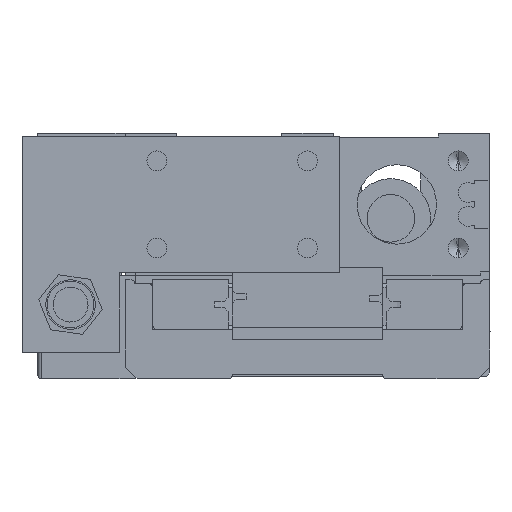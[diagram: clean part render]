
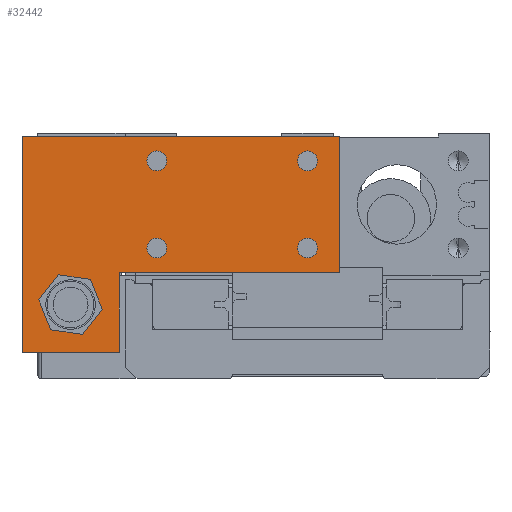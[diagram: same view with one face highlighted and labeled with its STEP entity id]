
A CAD part, front view. The second image highlights one B-rep face of the part: STEP entity #32442.
In plain terms, the highlighted planar face has unit normal (0, -1, 0) as drawn and (0, 0, -1) by its records, which use the part's own axes.
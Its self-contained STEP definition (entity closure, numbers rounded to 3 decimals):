
#13167 = CIRCLE ( 'NONE', #13174, 6.25 ) ;
#13174 = AXIS2_PLACEMENT_3D ( 'NONE', #13279, #13278, #13277 ) ;
#13277 = DIRECTION ( 'NONE',  ( -1., 0., 0. ) ) ;
#13278 = DIRECTION ( 'NONE',  ( 0., 0., -1. ) ) ;
#13279 = CARTESIAN_POINT ( 'NONE',  ( -67.75, 42.5, 0. ) ) ;
#21787 = DIRECTION ( 'NONE',  ( -1., 0., 0. ) ) ;
#21788 = DIRECTION ( 'NONE',  ( 0., 0., -1. ) ) ;
#21790 = CARTESIAN_POINT ( 'NONE',  ( -43.5, 28.25, 0. ) ) ;
#21792 = AXIS2_PLACEMENT_3D ( 'NONE', #21796, #21788, #21787 ) ;
#21796 = CARTESIAN_POINT ( 'NONE',  ( -67.75, 42.5, 0. ) ) ;
#21800 = CIRCLE ( 'NONE', #21792, 6.25 ) ;
#21838 = CARTESIAN_POINT ( 'NONE',  ( -61.5, 42.5, 0. ) ) ;
#21843 = CIRCLE ( 'NONE', #21868, 2.5 ) ;
#21844 = CARTESIAN_POINT ( 'NONE',  ( -5.5, 28.25, 0. ) ) ;
#21847 = AXIS2_PLACEMENT_3D ( 'NONE', #21897, #21896, #21895 ) ;
#21862 = DIRECTION ( 'NONE',  ( -1., 0., 0. ) ) ;
#21863 = DIRECTION ( 'NONE',  ( 0., 0., -1. ) ) ;
#21864 = CARTESIAN_POINT ( 'NONE',  ( -46., 6.25, 0. ) ) ;
#21866 = CARTESIAN_POINT ( 'NONE',  ( -43.5, 6.25, 0. ) ) ;
#21868 = AXIS2_PLACEMENT_3D ( 'NONE', #21864, #21863, #21862 ) ;
#21873 = CARTESIAN_POINT ( 'NONE',  ( -48.5, 6.25, 0. ) ) ;
#21876 = CARTESIAN_POINT ( 'NONE',  ( -46., 28.25, 0. ) ) ;
#21877 = CARTESIAN_POINT ( 'NONE',  ( -74., 42.5, 0. ) ) ;
#21888 = AXIS2_PLACEMENT_3D ( 'NONE', #21876, #21941, #21940 ) ;
#21895 = DIRECTION ( 'NONE',  ( -1., 0., 0. ) ) ;
#21896 = DIRECTION ( 'NONE',  ( 0., 0., -1. ) ) ;
#21897 = CARTESIAN_POINT ( 'NONE',  ( -8., 28.25, 0. ) ) ;
#21898 = CIRCLE ( 'NONE', #21888, 2.5 ) ;
#21899 = CARTESIAN_POINT ( 'NONE',  ( -48.5, 28.25, 0. ) ) ;
#21902 = CIRCLE ( 'NONE', #21847, 2.5 ) ;
#21903 = CARTESIAN_POINT ( 'NONE',  ( -10.5, 28.25, 0. ) ) ;
#21909 = DIRECTION ( 'NONE',  ( -1., 0., 0. ) ) ;
#21910 = VECTOR ( 'NONE', #21909, 1000. ) ;
#21914 = CARTESIAN_POINT ( 'NONE',  ( -55.5, 34.5, 0. ) ) ;
#21930 = CARTESIAN_POINT ( 'NONE',  ( -55.5, 34.5, 0. ) ) ;
#21931 = LINE ( 'NONE', #21930, #21910 ) ;
#21940 = DIRECTION ( 'NONE',  ( -1., 0., 0. ) ) ;
#21941 = DIRECTION ( 'NONE',  ( 0., 0., -1. ) ) ;
#21945 = DIRECTION ( 'NONE',  ( 0., 1., 0. ) ) ;
#21946 = VECTOR ( 'NONE', #21945, 1000. ) ;
#21947 = CARTESIAN_POINT ( 'NONE',  ( 0., 34.5, 0. ) ) ;
#21949 = LINE ( 'NONE', #21947, #21946 ) ;
#21956 = CARTESIAN_POINT ( 'NONE',  ( 0., 0., 0. ) ) ;
#21977 = CARTESIAN_POINT ( 'NONE',  ( -5.5, 6.25, 0. ) ) ;
#21980 = LINE ( 'NONE', #22031, #22030 ) ;
#21986 = CARTESIAN_POINT ( 'NONE',  ( 0., 34.5, 0. ) ) ;
#21995 = DIRECTION ( 'NONE',  ( -1., 0., 0. ) ) ;
#21996 = DIRECTION ( 'NONE',  ( 0., 0., -1. ) ) ;
#21997 = CARTESIAN_POINT ( 'NONE',  ( -8., 6.25, 0. ) ) ;
#21998 = AXIS2_PLACEMENT_3D ( 'NONE', #21997, #21996, #21995 ) ;
#22000 = CIRCLE ( 'NONE', #21998, 2.5 ) ;
#22010 = CARTESIAN_POINT ( 'NONE',  ( -10.5, 6.25, 0. ) ) ;
#22029 = DIRECTION ( 'NONE',  ( 1., 0., 0. ) ) ;
#22030 = VECTOR ( 'NONE', #22029, 1000. ) ;
#22031 = CARTESIAN_POINT ( 'NONE',  ( 0., 0., 0. ) ) ;
#22064 = CARTESIAN_POINT ( 'NONE',  ( -80., 54.5, 0. ) ) ;
#22105 = FACE_BOUND ( 'NONE', #29229, .T. ) ;
#22106 = DIRECTION ( 'NONE',  ( 0., 0., -1. ) ) ;
#22109 = DIRECTION ( 'NONE',  ( 0., 1., 0. ) ) ;
#22110 = VECTOR ( 'NONE', #22109, 1000. ) ;
#22111 = CARTESIAN_POINT ( 'NONE',  ( -55.5, 54.5, 0. ) ) ;
#22112 = CARTESIAN_POINT ( 'NONE',  ( -55.5, 54.5, 0. ) ) ;
#22115 = LINE ( 'NONE', #22111, #22110 ) ;
#22117 = DIRECTION ( 'NONE',  ( 0., -1., 0. ) ) ;
#22118 = VECTOR ( 'NONE', #22117, 1000. ) ;
#22119 = CARTESIAN_POINT ( 'NONE',  ( -80., 0., 0. ) ) ;
#22120 = LINE ( 'NONE', #22119, #22118 ) ;
#22124 = CARTESIAN_POINT ( 'NONE',  ( -80., 0., 0. ) ) ;
#22134 = DIRECTION ( 'NONE',  ( -1., 0., 0. ) ) ;
#22135 = DIRECTION ( 'NONE',  ( 0., 0., -1. ) ) ;
#22136 = CARTESIAN_POINT ( 'NONE',  ( -46., 6.25, 0. ) ) ;
#22137 = AXIS2_PLACEMENT_3D ( 'NONE', #22136, #22135, #22134 ) ;
#22142 = CIRCLE ( 'NONE', #22137, 2.5 ) ;
#22143 = AXIS2_PLACEMENT_3D ( 'NONE', #22201, #22200, #22199 ) ;
#22146 = FACE_BOUND ( 'NONE', #32434, .T. ) ;
#22147 = DIRECTION ( 'NONE',  ( -1., 0., 0. ) ) ;
#22148 = DIRECTION ( 'NONE',  ( 0., 0., -1. ) ) ;
#22149 = CARTESIAN_POINT ( 'NONE',  ( -8., 28.25, 0. ) ) ;
#22150 = AXIS2_PLACEMENT_3D ( 'NONE', #22149, #22148, #22147 ) ;
#22151 = FACE_BOUND ( 'NONE', #32439, .T. ) ;
#22152 = CIRCLE ( 'NONE', #22143, 2.5 ) ;
#22153 = FACE_BOUND ( 'NONE', #32454, .T. ) ;
#22154 = CIRCLE ( 'NONE', #22150, 2.5 ) ;
#22155 = DIRECTION ( 'NONE',  ( -1., 0., 0. ) ) ;
#22156 = DIRECTION ( 'NONE',  ( -1., 0., 0. ) ) ;
#22157 = VECTOR ( 'NONE', #22156, 1000. ) ;
#22158 = CARTESIAN_POINT ( 'NONE',  ( -80., 54.5, 0. ) ) ;
#22159 = LINE ( 'NONE', #22158, #22157 ) ;
#22160 = CARTESIAN_POINT ( 'NONE',  ( 0., 0., 0. ) ) ;
#22161 = FACE_BOUND ( 'NONE', #32455, .T. ) ;
#22165 = AXIS2_PLACEMENT_3D ( 'NONE', #22160, #22106, #22155 ) ;
#22166 = PLANE ( 'NONE',  #22165 ) ;
#22167 = FACE_OUTER_BOUND ( 'NONE', #32430, .T. ) ;
#22199 = DIRECTION ( 'NONE',  ( -1., 0., 0. ) ) ;
#22200 = DIRECTION ( 'NONE',  ( 0., 0., -1. ) ) ;
#22201 = CARTESIAN_POINT ( 'NONE',  ( -8., 6.25, 0. ) ) ;
#22202 = DIRECTION ( 'NONE',  ( -1., 0., 0. ) ) ;
#22203 = DIRECTION ( 'NONE',  ( 0., 0., -1. ) ) ;
#22204 = AXIS2_PLACEMENT_3D ( 'NONE', #22224, #22203, #22202 ) ;
#22214 = CIRCLE ( 'NONE', #22204, 2.5 ) ;
#22224 = CARTESIAN_POINT ( 'NONE',  ( -46., 28.25, 0. ) ) ;
#27595 = ORIENTED_EDGE ( 'NONE', *, *, #32304, .F. ) ;
#27597 = EDGE_CURVE ( 'NONE', #32338, #32286, #13167, .T. ) ;
#29229 = EDGE_LOOP ( 'NONE', ( #32457, #32444 ) ) ;
#32260 = VERTEX_POINT ( 'NONE', #21790 ) ;
#32264 = EDGE_CURVE ( 'NONE', #32286, #32338, #21800, .T. ) ;
#32286 = VERTEX_POINT ( 'NONE', #21838 ) ;
#32302 = VERTEX_POINT ( 'NONE', #21873 ) ;
#32304 = EDGE_CURVE ( 'NONE', #32306, #32302, #21843, .T. ) ;
#32306 = VERTEX_POINT ( 'NONE', #21866 ) ;
#32319 = VERTEX_POINT ( 'NONE', #21844 ) ;
#32320 = VERTEX_POINT ( 'NONE', #21903 ) ;
#32322 = EDGE_CURVE ( 'NONE', #32319, #32320, #21902, .T. ) ;
#32330 = VERTEX_POINT ( 'NONE', #21899 ) ;
#32335 = EDGE_CURVE ( 'NONE', #32260, #32330, #21898, .T. ) ;
#32338 = VERTEX_POINT ( 'NONE', #21877 ) ;
#32354 = EDGE_CURVE ( 'NONE', #32385, #32356, #21931, .T. ) ;
#32356 = VERTEX_POINT ( 'NONE', #21914 ) ;
#32368 = EDGE_CURVE ( 'NONE', #32371, #32385, #21949, .T. ) ;
#32371 = VERTEX_POINT ( 'NONE', #21956 ) ;
#32378 = EDGE_CURVE ( 'NONE', #32379, #32380, #22000, .T. ) ;
#32379 = VERTEX_POINT ( 'NONE', #21977 ) ;
#32380 = VERTEX_POINT ( 'NONE', #22010 ) ;
#32385 = VERTEX_POINT ( 'NONE', #21986 ) ;
#32393 = EDGE_CURVE ( 'NONE', #32424, #32371, #21980, .T. ) ;
#32404 = VERTEX_POINT ( 'NONE', #22064 ) ;
#32411 = EDGE_CURVE ( 'NONE', #32404, #32424, #22120, .T. ) ;
#32415 = EDGE_CURVE ( 'NONE', #32356, #32416, #22115, .T. ) ;
#32416 = VERTEX_POINT ( 'NONE', #22112 ) ;
#32424 = VERTEX_POINT ( 'NONE', #22124 ) ;
#32427 = EDGE_CURVE ( 'NONE', #32416, #32404, #22159, .T. ) ;
#32430 = EDGE_LOOP ( 'NONE', ( #32432, #32435, #32431, #32505, #32438, #32433 ) ) ;
#32431 = ORIENTED_EDGE ( 'NONE', *, *, #32411, .F. ) ;
#32432 = ORIENTED_EDGE ( 'NONE', *, *, #32368, .F. ) ;
#32433 = ORIENTED_EDGE ( 'NONE', *, *, #32354, .F. ) ;
#32434 = EDGE_LOOP ( 'NONE', ( #32437, #32496 ) ) ;
#32435 = ORIENTED_EDGE ( 'NONE', *, *, #32393, .F. ) ;
#32436 = ORIENTED_EDGE ( 'NONE', *, *, #32440, .F. ) ;
#32437 = ORIENTED_EDGE ( 'NONE', *, *, #32495, .F. ) ;
#32438 = ORIENTED_EDGE ( 'NONE', *, *, #32415, .F. ) ;
#32439 = EDGE_LOOP ( 'NONE', ( #32436, #32441 ) ) ;
#32440 = EDGE_CURVE ( 'NONE', #32320, #32319, #22154, .T. ) ;
#32441 = ORIENTED_EDGE ( 'NONE', *, *, #32322, .F. ) ;
#32442 = ADVANCED_FACE ( 'NONE', ( #22105, #22161, #22153, #22167, #22151, #22146 ), #22166, .T. ) ;
#32443 = ORIENTED_EDGE ( 'NONE', *, *, #32445, .F. ) ;
#32444 = ORIENTED_EDGE ( 'NONE', *, *, #32264, .F. ) ;
#32445 = EDGE_CURVE ( 'NONE', #32302, #32306, #22142, .T. ) ;
#32446 = EDGE_CURVE ( 'NONE', #32380, #32379, #22152, .T. ) ;
#32452 = ORIENTED_EDGE ( 'NONE', *, *, #32446, .F. ) ;
#32454 = EDGE_LOOP ( 'NONE', ( #32452, #32504 ) ) ;
#32455 = EDGE_LOOP ( 'NONE', ( #32443, #27595 ) ) ;
#32457 = ORIENTED_EDGE ( 'NONE', *, *, #27597, .F. ) ;
#32495 = EDGE_CURVE ( 'NONE', #32330, #32260, #22214, .T. ) ;
#32496 = ORIENTED_EDGE ( 'NONE', *, *, #32335, .F. ) ;
#32504 = ORIENTED_EDGE ( 'NONE', *, *, #32378, .F. ) ;
#32505 = ORIENTED_EDGE ( 'NONE', *, *, #32427, .F. ) ;
